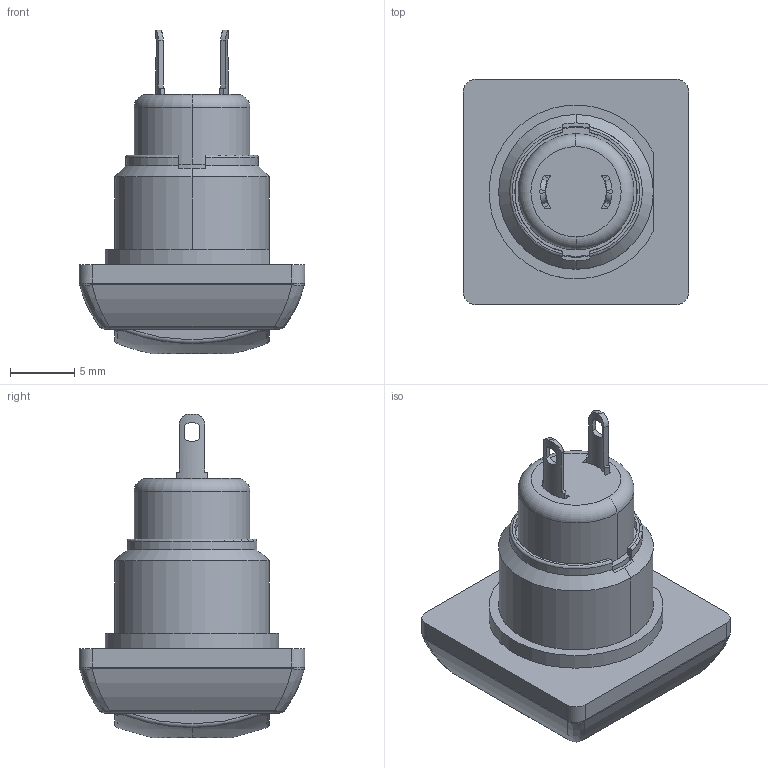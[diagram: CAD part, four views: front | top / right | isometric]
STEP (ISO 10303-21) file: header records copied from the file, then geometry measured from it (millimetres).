
FILE_DESCRIPTION((''),'2;1');
FILE_NAME('IPC3SAD6','2009-04-20T',('francis'),(''),'PRO/ENGINEER BY PARAMETRIC TECHNOLOGY CORPORATION, 2007030','PRO/ENGINEER BY PARAMETRIC TECHNOLOGY CORPORATION, 2007030','');
FILE_SCHEMA(('CONFIG_CONTROL_DESIGN'));
Length unit declared in the file: millimetre
Products named in the file (1): IPC3SAD6
Bounding box: 17.5 x 17.5 x 25.14 mm (x, y, z)
Volume: 1863 mm3; surface area: 2565.1 mm2
Topology: 2 solids, 2 shells, 228 faces, 592 edges, 368 vertices
Faces by surface type: cylinder 81, plane 79, bspline 24, torus 22, cone 14, sphere 8
Entity records: 8241 total; most frequent: CARTESIAN_POINT 2698, ORIENTED_EDGE 1172, DIRECTION 1147, EDGE_CURVE 586, AXIS2_PLACEMENT_3D 443, VERTEX_POINT 368, VECTOR 261, LINE 261
